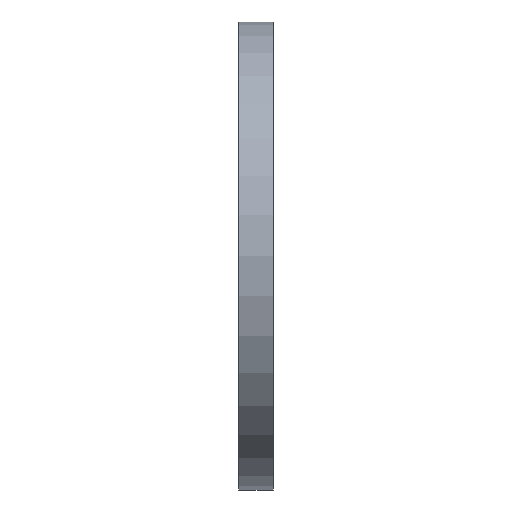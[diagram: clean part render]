
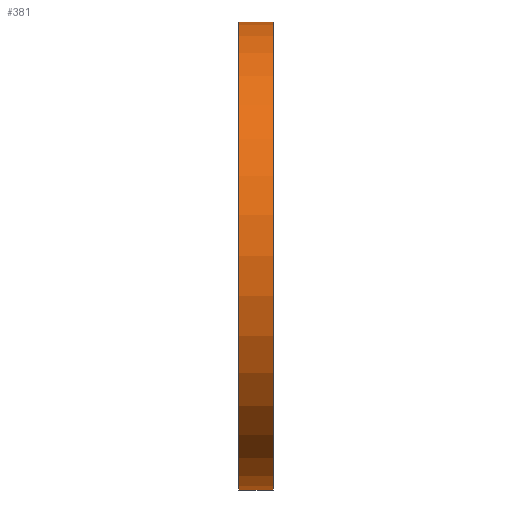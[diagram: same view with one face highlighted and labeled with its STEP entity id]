
A CAD part, top view. The second image highlights one B-rep face of the part: STEP entity #381.
In plain terms, the highlighted cylindrical face has radius 43.18 mm (diameter 86.36 mm), a partial arc.
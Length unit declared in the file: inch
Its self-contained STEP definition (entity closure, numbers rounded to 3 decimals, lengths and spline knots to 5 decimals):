
#68 = CARTESIAN_POINT ( 'NONE',  ( -8.9, -3.58775, 16.85534 ) ) ;
#71 = CARTESIAN_POINT ( 'NONE',  ( -8.65, -3.58775, 16.85534 ) ) ;
#88 = AXIS2_PLACEMENT_3D ( 'NONE', #614, #688, #744 ) ;
#108 = CYLINDRICAL_SURFACE ( 'NONE', #182, 1.7 ) ;
#122 = CARTESIAN_POINT ( 'NONE',  ( -8.65, -3.58775, 16.85534 ) ) ;
#127 = EDGE_CURVE ( 'NONE', #647, #501, #242, .T. ) ;
#182 = AXIS2_PLACEMENT_3D ( 'NONE', #286, #756, #225 ) ;
#208 = VECTOR ( 'NONE', #589, 39.37008 ) ;
#222 = FACE_OUTER_BOUND ( 'NONE', #504, .T. ) ;
#225 = DIRECTION ( 'NONE',  ( 0., -1., 0. ) ) ;
#239 = CARTESIAN_POINT ( 'NONE',  ( -8.65, -5.28775, 16.85534 ) ) ;
#242 = LINE ( 'NONE', #122, #208 ) ;
#249 = DIRECTION ( 'NONE',  ( 0., 1., 0. ) ) ;
#258 = DIRECTION ( 'NONE',  ( -1., 0., 0. ) ) ;
#286 = CARTESIAN_POINT ( 'NONE',  ( -8.65, -5.28775, 16.85534 ) ) ;
#305 = DIRECTION ( 'NONE',  ( 1., 0., 0. ) ) ;
#317 = CARTESIAN_POINT ( 'NONE',  ( -8.65, -6.98775, 16.85534 ) ) ;
#320 = CIRCLE ( 'NONE', #88, 1.7 ) ;
#340 = ORIENTED_EDGE ( 'NONE', *, *, #658, .T. ) ;
#379 = CARTESIAN_POINT ( 'NONE',  ( -8.9, -6.98775, 16.85534 ) ) ;
#381 = ADVANCED_FACE ( 'NONE', ( #222 ), #108, .T. ) ;
#385 = ORIENTED_EDGE ( 'NONE', *, *, #127, .T. ) ;
#428 = CARTESIAN_POINT ( 'NONE',  ( -8.65, -6.98775, 16.85534 ) ) ;
#432 = EDGE_CURVE ( 'NONE', #647, #709, #480, .T. ) ;
#480 = CIRCLE ( 'NONE', #742, 1.7 ) ;
#501 = VERTEX_POINT ( 'NONE', #68 ) ;
#504 = EDGE_LOOP ( 'NONE', ( #553, #385, #340, #683 ) ) ;
#553 = ORIENTED_EDGE ( 'NONE', *, *, #432, .F. ) ;
#564 = VERTEX_POINT ( 'NONE', #379 ) ;
#589 = DIRECTION ( 'NONE',  ( -1., 0., 0. ) ) ;
#604 = EDGE_CURVE ( 'NONE', #709, #564, #676, .T. ) ;
#614 = CARTESIAN_POINT ( 'NONE',  ( -8.9, -5.28775, 16.85534 ) ) ;
#647 = VERTEX_POINT ( 'NONE', #71 ) ;
#658 = EDGE_CURVE ( 'NONE', #501, #564, #320, .T. ) ;
#676 = LINE ( 'NONE', #317, #750 ) ;
#683 = ORIENTED_EDGE ( 'NONE', *, *, #604, .F. ) ;
#688 = DIRECTION ( 'NONE',  ( 1., 0., 0. ) ) ;
#709 = VERTEX_POINT ( 'NONE', #428 ) ;
#742 = AXIS2_PLACEMENT_3D ( 'NONE', #239, #305, #249 ) ;
#744 = DIRECTION ( 'NONE',  ( 0., 1., 0. ) ) ;
#750 = VECTOR ( 'NONE', #258, 39.37008 ) ;
#756 = DIRECTION ( 'NONE',  ( -1., 0., 0. ) ) ;
